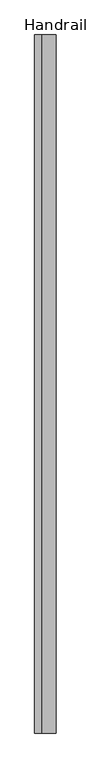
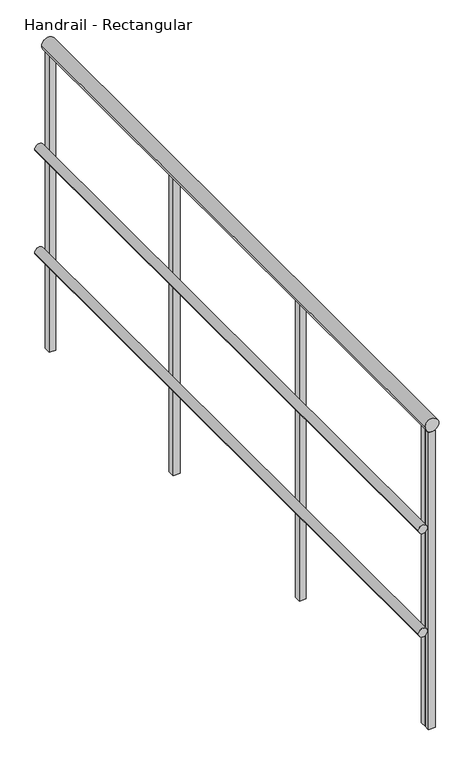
"""IFC4 building model written with IfcOpenShell, lengths in millimetres: railing geometry, Handrail - Rectangular."""

import ifcopenshell
import ifcopenshell.guid

model = None  # the IFC model being written
_history = None  # IfcOwnerHistory: only IFC2X3 demands one
_inside = {}  # id of a spatial element -> (the spatial element, [elements in it])
_under = {}  # id of a project, library or spatial element -> (it, [spatial elements below it])
_declared = {}  # id of a project -> (the project, [libraries it declares])
_typed = {}  # id of a type object -> (the type object, [elements of that type])
_made_of = {}  # id of a material, layer set ... -> (it, [elements and type objects made of it])


def new_model(schema):
    """Start an empty IFC model of exactly this schema.

    Asked for "IFC4X3", IfcOpenShell would pick the latest addendum, in which some entities
    have other attributes; the version numbers below select the first issue.
    IFC2X3 requires an IfcOwnerHistory on every rooted entity: one is made here for all.
    """
    global model, _history
    if schema == "IFC4X3":
        model = ifcopenshell.file(schema_version=(4, 3, 0, 0))
    else:
        model = ifcopenshell.file(schema=schema)
    _inside.clear()
    _under.clear()
    _declared.clear()
    _typed.clear()
    _made_of.clear()
    _history = None
    if model.schema == "IFC2X3":
        org = make("IfcOrganization", Name="unknown")
        user = make(
            "IfcPersonAndOrganization",
            ThePerson=make("IfcPerson", FamilyName="unknown"),
            TheOrganization=org,
        )
        app = make(
            "IfcApplication",
            ApplicationDeveloper=org,
            Version="unknown",
            ApplicationFullName="unknown",
            ApplicationIdentifier="unknown",
        )
        _history = make(
            "IfcOwnerHistory",
            OwningUser=user,
            OwningApplication=app,
            ChangeAction="ADDED",
            CreationDate=0,
        )
    return model


def make(cls, **values):
    """One entity of the class cls with the attributes given. An attribute that is None is left unset."""
    return model.create_entity(
        cls, **{name: value for name, value in values.items() if value is not None}
    )


def rooted(cls, **values):
    """An entity with a GlobalId (a new one), such as an element, a storey or a relation."""
    return make(cls, GlobalId=ifcopenshell.guid.new(), OwnerHistory=_history, **values)


def si_unit(unit_type, name, prefix=None):
    """IfcSIUnit, for example si_unit("LENGTHUNIT", "METRE", prefix="MILLI")."""
    return make("IfcSIUnit", UnitType=unit_type, Prefix=prefix, Name=name)


def assignment(units):
    """IfcUnitAssignment: the units of a project."""
    return None if units is None else make("IfcUnitAssignment", Units=units)


def point(xyz):
    """IfcCartesianPoint."""
    return None if xyz is None else make("IfcCartesianPoint", Coordinates=xyz)


def direction(xyz):
    """IfcDirection."""
    return None if xyz is None else make("IfcDirection", DirectionRatios=xyz)


def frame(location, z_axis=None, x_axis=None):
    """IfcAxis2Placement3D, a coordinate frame: its origin and axes. An axis left out is left unset."""
    return make(
        "IfcAxis2Placement3D",
        Location=point(location),
        Axis=direction(z_axis),
        RefDirection=direction(x_axis),
    )


def frame_2d(location, x_axis=None):
    """IfcAxis2Placement2D, a coordinate frame in the plane: its origin and x axis."""
    return make(
        "IfcAxis2Placement2D", Location=point(location), RefDirection=direction(x_axis)
    )


def origin():
    """The frame at (0, 0, 0) with its axes left unset."""
    return frame((0.0, 0.0, 0.0))


def place(relative_to, where):
    """IfcLocalPlacement: puts the frame where relative to a parent placement (None: the world)."""
    return make(
        "IfcLocalPlacement", PlacementRelTo=relative_to, RelativePlacement=where
    )


def context(
    kind, dimensions, precision=None, world=None, true_north=None, identifier=None
):
    """IfcGeometricRepresentationContext, for example the 3D "Model" context."""
    return make(
        "IfcGeometricRepresentationContext",
        ContextIdentifier=identifier,
        ContextType=kind,
        CoordinateSpaceDimension=dimensions,
        Precision=precision,
        WorldCoordinateSystem=world,
        TrueNorth=true_north,
    )


def project(units=None, contexts=None):
    """IfcProject with its units and contexts."""
    return rooted(
        "IfcProject",
        Name="project",
        RepresentationContexts=contexts,
        UnitsInContext=assignment(units),
    )


def spatial(cls, under=None, at=None, **own):
    """A site, building, storey or space (cls), placed at a placement, below another one or the project."""
    s = rooted(cls, ObjectPlacement=at, **own)
    if under is not None:
        _under.setdefault(under.id(), (under, []))[1].append(s)
    return s


def polyline(points):
    """IfcPolyline through the points."""
    return make("IfcPolyline", Points=[point(p) for p in points])


def circle_curve(where, radius):
    """IfcCircle in the frame where."""
    return make("IfcCircle", Position=where, Radius=radius)


def trimmed(basis, trim1, trim2, sense, master):
    """IfcTrimmedCurve: the piece of a basis curve between two trims."""
    return make(
        "IfcTrimmedCurve",
        BasisCurve=basis,
        Trim1=trim1,
        Trim2=trim2,
        SenseAgreement=sense,
        MasterRepresentation=master,
    )


def segment(curve, same_sense, transition):
    """IfcCompositeCurveSegment."""
    return make(
        "IfcCompositeCurveSegment",
        Transition=transition,
        SameSense=same_sense,
        ParentCurve=curve,
    )


def composite_curve(segments, self_intersect=None):
    """IfcCompositeCurve: segments joined end to end."""
    return make("IfcCompositeCurve", Segments=segments, SelfIntersect=self_intersect)


def outline(outer, holes=None, kind="AREA"):
    """IfcArbitraryClosedProfileDef: a profile drawn as a closed curve; with holes, ...WithVoids."""
    if holes is None:
        return make("IfcArbitraryClosedProfileDef", ProfileType=kind, OuterCurve=outer)
    return make(
        "IfcArbitraryProfileDefWithVoids",
        ProfileType=kind,
        OuterCurve=outer,
        InnerCurves=holes,
    )


def extrude(swept, where, along, depth):
    """IfcExtrudedAreaSolid: the profile swept, set in the frame where, extruded along a direction by depth."""
    return make(
        "IfcExtrudedAreaSolid",
        SweptArea=swept,
        Position=where,
        ExtrudedDirection=direction(along),
        Depth=depth,
    )


def shape(context_of_items, identifier, shape_type, items):
    """IfcShapeRepresentation: the items that make up one representation, for example the "Body"."""
    return make(
        "IfcShapeRepresentation",
        ContextOfItems=context_of_items,
        RepresentationIdentifier=identifier,
        RepresentationType=shape_type,
        Items=items,
    )


def source(mapping_origin, context_of_items, identifier, shape_type, items):
    """IfcRepresentationMap: a shape defined once, which mapped items show again and again."""
    return make(
        "IfcRepresentationMap",
        MappingOrigin=mapping_origin,
        MappedRepresentation=shape(context_of_items, identifier, shape_type, items),
    )


def transform(
    local_origin,
    x_axis=None,
    y_axis=None,
    z_axis=None,
    scale=None,
    scale2=None,
    scale3=None,
    uniform=True,
):
    """IfcCartesianTransformationOperator3D, or its non-uniform kind. x_axis, y_axis, z_axis: its Axis1, 2, 3."""
    if uniform:
        return make(
            "IfcCartesianTransformationOperator3D",
            Axis1=direction(x_axis),
            Axis2=direction(y_axis),
            LocalOrigin=point(local_origin),
            Scale=scale,
            Axis3=direction(z_axis),
        )
    return make(
        "IfcCartesianTransformationOperator3DnonUniform",
        Axis1=direction(x_axis),
        Axis2=direction(y_axis),
        LocalOrigin=point(local_origin),
        Scale=scale,
        Axis3=direction(z_axis),
        Scale2=scale2,
        Scale3=scale3,
    )


def mapped(mapping_source, mapping_target):
    """IfcMappedItem: shows the shape of a source again, moved by a transform."""
    return make(
        "IfcMappedItem", MappingSource=mapping_source, MappingTarget=mapping_target
    )


def made_of(thing, what):
    """Note that an element or type object is made of a material, layer set ...; save() writes the relation."""
    if what is not None:
        _made_of.setdefault(what.id(), (what, []))[1].append(thing)
    return thing


def element(
    cls,
    number,
    at=None,
    inside=None,
    cuts=None,
    type_object=None,
    material=None,
    context=None,
    identifier="Body",
    shape_type=None,
    held_by="IfcProductDefinitionShape",
    body=None,
    shapes=None,
    **own,
):
    """One element of the class cls, such as IfcWall. Its Tag is "e" and its number.

    at: its placement. inside: the storey or other place that contains it. cuts: it is an
    opening in that element (IfcRelVoidsElement). A single representation is given by context,
    identifier, shape_type and body (its items); several are given by shapes. held_by: the class
    of the entity that holds the representations. save() writes the other relations.
    """
    e = rooted(cls, Tag="e%d" % number, ObjectPlacement=at, **own)
    if body is not None:
        shapes = [shape(context, identifier, shape_type, body)]
    if shapes is not None:
        e.Representation = make(held_by, Representations=shapes)
    if inside is not None:
        _inside.setdefault(inside.id(), (inside, []))[1].append(e)
    if cuts is not None:
        rooted(
            "IfcRelVoidsElement", RelatingBuildingElement=cuts, RelatedOpeningElement=e
        )
    if type_object is not None:
        _typed.setdefault(type_object.id(), (type_object, []))[1].append(e)
    return made_of(e, material)


def aggregate(whole, parts):
    """IfcRelAggregates: a whole, such as a stair, and the parts it consists of."""
    return rooted("IfcRelAggregates", RelatingObject=whole, RelatedObjects=parts)


def save(model, path):
    """Write the relations noted so far, then the file.

    IfcRelAggregates (storeys below a building ...), IfcRelContainedInSpatialStructure (elements
    in a storey), IfcRelDefinesByType, IfcRelAssociatesMaterial and IfcRelDeclares: one each for
    every whole, place, type object, material and project.
    """
    for whole, parts in _under.values():
        aggregate(whole, parts)
    for where, things in _inside.values():
        rooted(
            "IfcRelContainedInSpatialStructure",
            RelatedElements=things,
            RelatingStructure=where,
        )
    for kind, things in _typed.values():
        rooted("IfcRelDefinesByType", RelatedObjects=things, RelatingType=kind)
    for what, things in _made_of.values():
        rooted("IfcRelAssociatesMaterial", RelatedObjects=things, RelatingMaterial=what)
    for by, libraries in _declared.values():
        rooted("IfcRelDeclares", RelatingContext=by, RelatedDefinitions=libraries)
    model.write(path)


def handrail_rectangular_509b275a(model_context):
    return source(origin(), model_context, "Body", "SweptSolid", [
        extrude(outline(composite_curve([segment(trimmed(circle_curve(frame_2d((3644.9, -32192.8839563)), 12.7), [point((3644.9, -32205.5839563))], [point((3644.9, -32180.1839563))], False, "CARTESIAN"), True, "CONTINUOUS"), segment(trimmed(circle_curve(frame_2d((3644.9, -32192.8839563)), 12.7), [point((3644.9, -32180.1839563))], [point((3644.9, -32205.5839563))], False, "CARTESIAN"), True, "CONTINUOUS")], self_intersect=False)), frame((0.0, 4578.8316867, 0.0), z_axis=(0.0, 1.0, 0.0), x_axis=(0.0, 0.0, 1.0)), (0.0, 0.0, 1.0), 1854.2),
        extrude(outline(composite_curve([segment(trimmed(circle_curve(frame_2d((3340.1, -32192.8839563)), 12.7), [point((3340.1, -32205.5839563))], [point((3340.1, -32180.1839563))], False, "CARTESIAN"), True, "CONTINUOUS"), segment(trimmed(circle_curve(frame_2d((3340.1, -32192.8839563)), 12.7), [point((3340.1, -32180.1839563))], [point((3340.1, -32205.5839563))], False, "CARTESIAN"), True, "CONTINUOUS")], self_intersect=False)), frame((0.0, 4578.8316867, 0.0), z_axis=(0.0, 1.0, 0.0), x_axis=(0.0, 0.0, 1.0)), (0.0, 0.0, 1.0), 1854.2),
        extrude(outline(composite_curve([segment(trimmed(circle_curve(frame_2d((3943.35, -32167.4839563)), 19.05), [point((3943.35, -32186.5339563))], [point((3943.35, -32148.4339563))], False, "CARTESIAN"), True, "CONTINUOUS"), segment(trimmed(circle_curve(frame_2d((3943.35, -32167.4839563)), 19.05), [point((3943.35, -32148.4339563))], [point((3943.35, -32186.5339563))], False, "CARTESIAN"), True, "CONTINUOUS")], self_intersect=False)), frame((0.0, 4578.8316867, 0.0), z_axis=(0.0, 1.0, 0.0), x_axis=(0.0, 0.0, 1.0)), (0.0, 0.0, 1.0), 1854.2),
        extrude(outline(polyline([(-32157.9589563, 4613.7566867), (-32157.9589563, 4594.7066867), (-32177.0089563, 4594.7066867), (-32177.0089563, 4613.7566867), (-32157.9589563, 4613.7566867)])), frame((0.0, 0.0, 3048.0), z_axis=(0.0, 0.0, 1.0), x_axis=(1.0, 0.0, 0.0)), (0.0, 0.0, 1.0), 876.3),
        extrude(outline(polyline([(-32157.9589563, 5223.3566867), (-32157.9589563, 5204.3066867), (-32177.0089563, 5204.3066867), (-32177.0089563, 5223.3566867), (-32157.9589563, 5223.3566867)])), frame((0.0, 0.0, 3048.0), z_axis=(0.0, 0.0, 1.0), x_axis=(1.0, 0.0, 0.0)), (0.0, 0.0, 1.0), 876.3),
        extrude(outline(polyline([(-32157.9589563, 5832.9566867), (-32157.9589563, 5813.9066867), (-32177.0089563, 5813.9066867), (-32177.0089563, 5832.9566867), (-32157.9589563, 5832.9566867)])), frame((0.0, 0.0, 3048.0), z_axis=(0.0, 0.0, 1.0), x_axis=(1.0, 0.0, 0.0)), (0.0, 0.0, 1.0), 876.3),
        extrude(outline(polyline([(-32157.9589563, 4597.8816867), (-32157.9589563, 4578.8316867), (-32177.0089563, 4578.8316867), (-32177.0089563, 4597.8816867), (-32157.9589563, 4597.8816867)])), frame((0.0, 0.0, 3048.0), z_axis=(0.0, 0.0, 1.0), x_axis=(1.0, 0.0, 0.0)), (0.0, 0.0, 1.0), 876.3),
        extrude(outline(polyline([(-32157.9589563, 6433.0316867), (-32157.9589563, 6413.9816867), (-32177.0089563, 6413.9816867), (-32177.0089563, 6433.0316867), (-32157.9589563, 6433.0316867)])), frame((0.0, 0.0, 3048.0), z_axis=(0.0, 0.0, 1.0), x_axis=(1.0, 0.0, 0.0)), (0.0, 0.0, 1.0), 876.3),
    ])


if __name__ == "__main__":
    model = new_model("IFC4")
    model_context = context("Model", 3, world=origin())
    ifc_project = project(units=[si_unit("LENGTHUNIT", "METRE", prefix="MILLI")], contexts=[model_context])
    site = spatial("IfcSite", under=ifc_project)
    building = spatial("IfcBuilding", under=site)
    placement = place(None, origin())
    handrail_rectangular_shape = handrail_rectangular_509b275a(model_context)
    element("IfcRailing", 1, ObjectType="Handrail - Rectangular", at=placement, inside=building, context=model_context, shape_type="MappedRepresentation", body=[
        mapped(handrail_rectangular_shape, transform((0.0, 0.0, 0.0), x_axis=(1.0, 0.0, 0.0), y_axis=(0.0, 1.0, 0.0), z_axis=(0.0, 0.0, 1.0))),
    ])
    save(model, "model.ifc")
